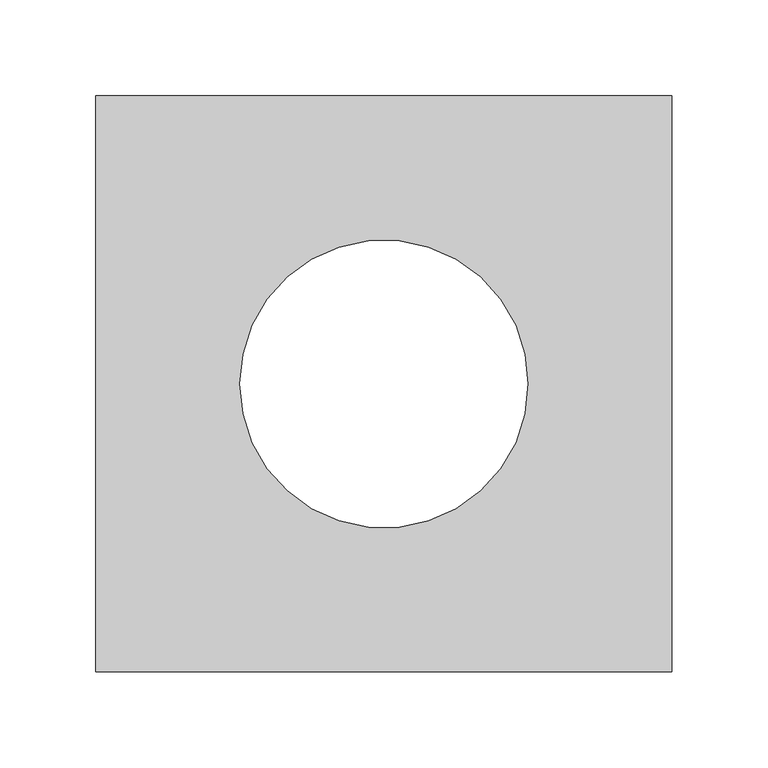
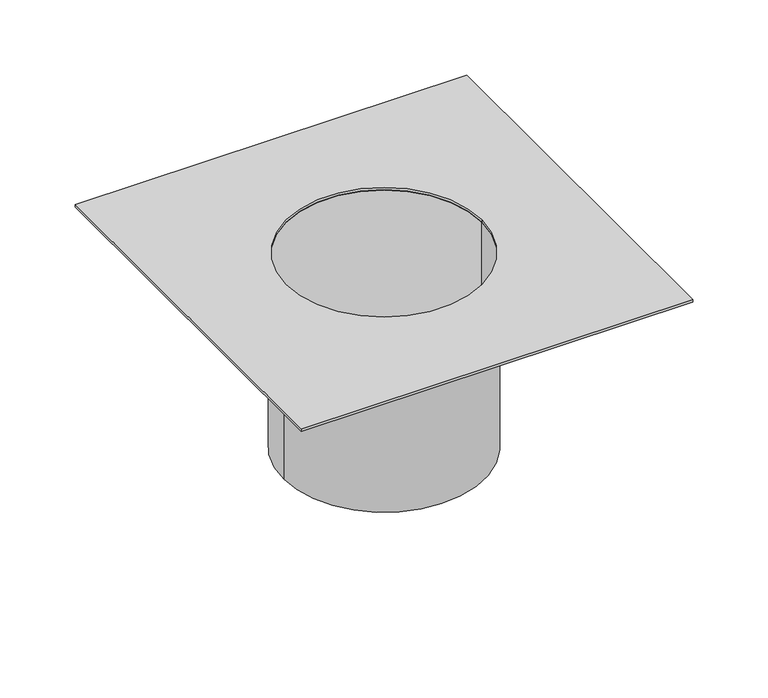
"""IFC4 building model written with IfcOpenShell, lengths in millimetres: proxy geometry, Modelos genéricos 1 : Modelos genéricos 1."""

from ifc_helpers import new_model, si_unit, point, frame, frame_2d, origin, place, context, project, spatial, polyline, circle_curve, trimmed, segment, composite_curve, outline, extrude, source, transform, mapped, element, save


def generic_models_2ac0e569(model_context):
    return source(origin(), model_context, "Body", "SweptSolid", [
        extrude(outline(composite_curve([segment(trimmed(circle_curve(frame_2d((922.6644952, -1237.9912025)), 77.0), [point((999.6644952, -1237.9912025))], [point((845.6644952, -1237.9912025))], False, "CARTESIAN"), True, "CONTINUOUS"), segment(trimmed(circle_curve(frame_2d((922.6644952, -1237.9912025)), 77.0), [point((845.6644952, -1237.9912025))], [point((999.6644952, -1237.9912025))], False, "CARTESIAN"), True, "CONTINUOUS")], self_intersect=False), holes=[composite_curve([segment(trimmed(circle_curve(frame_2d((922.6644952, -1237.9912025)), 75.0), [point((997.6644952, -1237.9912025))], [point((847.6644952, -1237.9912025))], True, "CARTESIAN"), True, "CONTINUOUS"), segment(trimmed(circle_curve(frame_2d((922.6644952, -1237.9912025)), 75.0), [point((847.6644952, -1237.9912025))], [point((997.6644952, -1237.9912025))], True, "CARTESIAN"), True, "CONTINUOUS")], self_intersect=False)]), frame((0.0, 0.0, -135.523798), z_axis=(0.0, 0.0, 1.0), x_axis=(1.0, 0.0, 0.0)), (0.0, 0.0, 1.0), 154.9299739),
        extrude(outline(polyline([(1072.6644952, -1087.9912025), (1072.6644952, -1387.9912025), (772.6644952, -1387.9912025), (772.6644952, -1087.9912025), (1072.6644952, -1087.9912025)]), holes=[composite_curve([segment(trimmed(circle_curve(frame_2d((922.6644952, -1237.9912025)), 75.0), [point((847.6644952, -1237.9912025))], [point((997.6644952, -1237.9912025))], True, "CARTESIAN"), True, "CONTINUOUS"), segment(trimmed(circle_curve(frame_2d((922.6644952, -1237.9912025)), 75.0), [point((997.6644952, -1237.9912025))], [point((847.6644952, -1237.9912025))], True, "CARTESIAN"), True, "CONTINUOUS")], self_intersect=False)]), frame((0.0, 0.0, 19.4061759), z_axis=(0.0, 0.0, 1.0), x_axis=(1.0, 0.0, 0.0)), (0.0, 0.0, 1.0), 2.0735733),
    ])


if __name__ == "__main__":
    model = new_model("IFC4")
    model_context = context("Model", 3, world=origin())
    ifc_project = project(units=[si_unit("LENGTHUNIT", "METRE", prefix="MILLI")], contexts=[model_context])
    site = spatial("IfcSite", under=ifc_project)
    building = spatial("IfcBuilding", under=site)
    placement = place(None, origin())
    generic_models_shape = generic_models_2ac0e569(model_context)
    element("IfcBuildingElementProxy", 1, Name="Modelos genéricos 1 : Modelos genéricos 1", ObjectType="Modelos genéricos 1 : Modelos genéricos 1", at=placement, inside=building, context=model_context, shape_type="MappedRepresentation", body=[
        mapped(generic_models_shape, transform((0.0, 0.0, 0.0), x_axis=(1.0, 0.0, 0.0), y_axis=(0.0, 1.0, 0.0), z_axis=(0.0, 0.0, 1.0))),
    ])
    save(model, "model.ifc")
